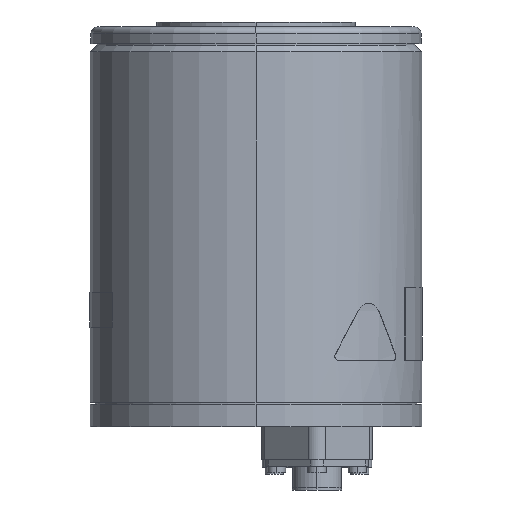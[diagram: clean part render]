
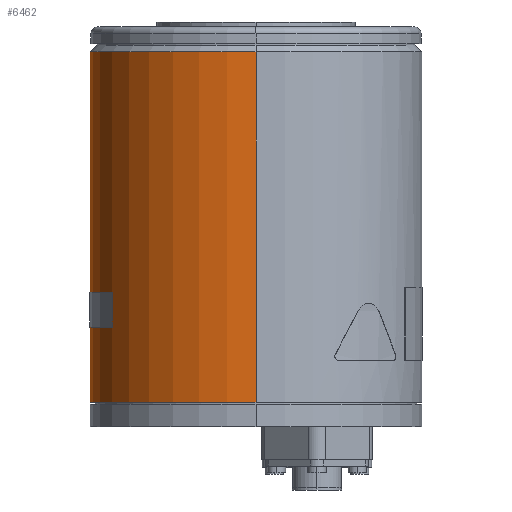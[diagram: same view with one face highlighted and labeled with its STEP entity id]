
A CAD part, left-side view. The second image highlights one B-rep face of the part: STEP entity #6462.
In plain terms, the highlighted cylindrical face has radius 50 mm (diameter 100 mm), a partial arc.
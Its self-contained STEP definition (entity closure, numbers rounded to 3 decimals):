
#189 = AXIS2_PLACEMENT_3D ( 'NONE', #6846, #6824, #6854 ) ;
#338 = AXIS2_PLACEMENT_3D ( 'NONE', #1190, #1189, #1188 ) ;
#349 = AXIS2_PLACEMENT_3D ( 'NONE', #9706, #9708, #8233 ) ;
#351 = AXIS2_PLACEMENT_3D ( 'NONE', #7499, #7510, #7508 ) ;
#398 = AXIS2_PLACEMENT_3D ( 'NONE', #7007, #7001, #7003 ) ;
#774 = CARTESIAN_POINT ( 'NONE',  ( 50., 0., 7.3 ) ) ;
#806 = CARTESIAN_POINT ( 'NONE',  ( -25., 43.301, 40.5 ) ) ;
#807 = CARTESIAN_POINT ( 'NONE',  ( 25., 43.301, 30. ) ) ;
#822 = CARTESIAN_POINT ( 'NONE',  ( -50., 0., 7.3 ) ) ;
#873 = CARTESIAN_POINT ( 'NONE',  ( 25., 43.301, 40.5 ) ) ;
#1009 = EDGE_CURVE ( 'NONE', #3786, #6732, #5813, .T. ) ;
#1087 = EDGE_CURVE ( 'NONE', #3756, #3786, #5933, .T. ) ;
#1111 = EDGE_CURVE ( 'NONE', #6738, #6806, #5969, .T. ) ;
#1122 = EDGE_CURVE ( 'NONE', #3808, #3756, #5987, .T. ) ;
#1136 = EDGE_CURVE ( 'NONE', #3790, #3742, #6005, .T. ) ;
#1188 = DIRECTION ( 'NONE',  ( -1., 0., 0. ) ) ;
#1189 = DIRECTION ( 'NONE',  ( 0., 0., -1. ) ) ;
#1190 = CARTESIAN_POINT ( 'NONE',  ( 0., 0., 7.3 ) ) ;
#1325 = CARTESIAN_POINT ( 'NONE',  ( 50., 0., 0. ) ) ;
#1378 = DIRECTION ( 'NONE',  ( 0., 0., -1. ) ) ;
#1385 = CARTESIAN_POINT ( 'NONE',  ( -50., 0., 0. ) ) ;
#1399 = DIRECTION ( 'NONE',  ( 0., 0., -1. ) ) ;
#1430 = DIRECTION ( 'NONE',  ( 0., 0., 1. ) ) ;
#1443 = CARTESIAN_POINT ( 'NONE',  ( -25., 43.301, 0. ) ) ;
#1466 = EDGE_CURVE ( 'NONE', #6732, #3808, #6079, .T. ) ;
#1477 = EDGE_CURVE ( 'NONE', #6806, #3742, #6087, .T. ) ;
#1488 = EDGE_CURVE ( 'NONE', #6738, #3790, #6110, .T. ) ;
#2252 = EDGE_LOOP ( 'NONE', ( #7914, #7915, #7916, #7917 ) ) ;
#2310 = EDGE_LOOP ( 'NONE', ( #7910, #7911, #7912, #7913 ) ) ;
#3405 = CARTESIAN_POINT ( 'NONE',  ( -25., 43.301, 30. ) ) ;
#3410 = CARTESIAN_POINT ( 'NONE',  ( -50., 0., 113. ) ) ;
#3478 = CARTESIAN_POINT ( 'NONE',  ( 50., 0., 113. ) ) ;
#3742 = VERTEX_POINT ( 'NONE', #774 ) ;
#3756 = VERTEX_POINT ( 'NONE', #873 ) ;
#3786 = VERTEX_POINT ( 'NONE', #807 ) ;
#3790 = VERTEX_POINT ( 'NONE', #822 ) ;
#3808 = VERTEX_POINT ( 'NONE', #806 ) ;
#4047 = FACE_BOUND ( 'NONE', #2310, .T. ) ;
#4049 = CYLINDRICAL_SURFACE ( 'NONE', #189, 50. ) ;
#4055 = FACE_OUTER_BOUND ( 'NONE', #2252, .T. ) ;
#5813 = CIRCLE ( 'NONE', #398, 50. ) ;
#5931 = VECTOR ( 'NONE', #8985, 1000. ) ;
#5933 = LINE ( 'NONE', #9007, #5931 ) ;
#5969 = CIRCLE ( 'NONE', #351, 50. ) ;
#5987 = CIRCLE ( 'NONE', #349, 50. ) ;
#6005 = CIRCLE ( 'NONE', #338, 50. ) ;
#6064 = VECTOR ( 'NONE', #1430, 1000. ) ;
#6079 = LINE ( 'NONE', #1443, #6064 ) ;
#6087 = LINE ( 'NONE', #1325, #6095 ) ;
#6095 = VECTOR ( 'NONE', #1399, 1000. ) ;
#6097 = VECTOR ( 'NONE', #1378, 1000. ) ;
#6110 = LINE ( 'NONE', #1385, #6097 ) ;
#6462 = ADVANCED_FACE ( 'NONE', ( #4047, #4055 ), #4049, .T. ) ;
#6732 = VERTEX_POINT ( 'NONE', #3405 ) ;
#6738 = VERTEX_POINT ( 'NONE', #3410 ) ;
#6806 = VERTEX_POINT ( 'NONE', #3478 ) ;
#6824 = DIRECTION ( 'NONE',  ( 0., 0., -1. ) ) ;
#6846 = CARTESIAN_POINT ( 'NONE',  ( 0., 0., 0. ) ) ;
#6854 = DIRECTION ( 'NONE',  ( -1., 0., 0. ) ) ;
#7001 = DIRECTION ( 'NONE',  ( 0., 0., 1. ) ) ;
#7003 = DIRECTION ( 'NONE',  ( -1., 0., 0. ) ) ;
#7007 = CARTESIAN_POINT ( 'NONE',  ( 0., 0., 30. ) ) ;
#7499 = CARTESIAN_POINT ( 'NONE',  ( 0., 0., 113. ) ) ;
#7508 = DIRECTION ( 'NONE',  ( -1., 0., 0. ) ) ;
#7510 = DIRECTION ( 'NONE',  ( 0., 0., -1. ) ) ;
#7910 = ORIENTED_EDGE ( 'NONE', *, *, #1466, .F. ) ;
#7911 = ORIENTED_EDGE ( 'NONE', *, *, #1009, .F. ) ;
#7912 = ORIENTED_EDGE ( 'NONE', *, *, #1087, .F. ) ;
#7913 = ORIENTED_EDGE ( 'NONE', *, *, #1122, .F. ) ;
#7914 = ORIENTED_EDGE ( 'NONE', *, *, #1111, .T. ) ;
#7915 = ORIENTED_EDGE ( 'NONE', *, *, #1477, .T. ) ;
#7916 = ORIENTED_EDGE ( 'NONE', *, *, #1136, .F. ) ;
#7917 = ORIENTED_EDGE ( 'NONE', *, *, #1488, .F. ) ;
#8233 = DIRECTION ( 'NONE',  ( 1., 0., 0. ) ) ;
#8985 = DIRECTION ( 'NONE',  ( 0., 0., -1. ) ) ;
#9007 = CARTESIAN_POINT ( 'NONE',  ( 25., 43.301, 0. ) ) ;
#9706 = CARTESIAN_POINT ( 'NONE',  ( 0., 0., 40.5 ) ) ;
#9708 = DIRECTION ( 'NONE',  ( 0., 0., -1. ) ) ;
